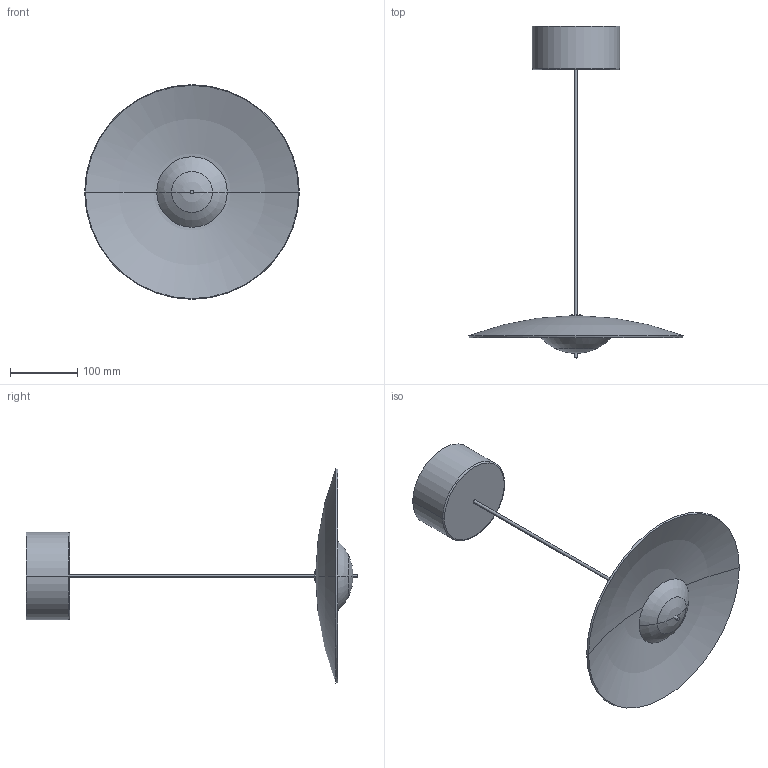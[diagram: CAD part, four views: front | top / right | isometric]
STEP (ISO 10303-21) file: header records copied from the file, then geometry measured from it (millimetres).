
FILE_DESCRIPTION((''),'2;1');
FILE_NAME('GINGER_32_ASM','2014-07-17T',('oftec'),(''),'PRO/ENGINEER BY PARAMETRIC TECHNOLOGY CORPORATION, 2012130','PRO/ENGINEER BY PARAMETRIC TECHNOLOGY CORPORATION, 2012130','');
FILE_SCHEMA(('CONFIG_CONTROL_DESIGN'));
Length unit declared in the file: millimetre
Products named in the file (7): 662-001; 662-004; 662-003; 662-036; FLORON_GINGER; CABLE_GINGER; GINGER_32_ASM
Assembly tree (6 placements, depth 2):
  GINGER_32_ASM
    662-001
    662-004
    662-003
    662-036
    FLORON_GINGER
    CABLE_GINGER
Bounding box: 320 x 495 x 320 mm (x, y, z)
Volume: 1229510.4 mm3; surface area: 249262.5 mm2
Topology: 6 solids, 6 shells, 43 faces, 84 edges, 48 vertices
Faces by surface type: cylinder 14, sphere 10, plane 9, torus 6, cone 4
Entity records: 1262 total; most frequent: DIRECTION 254, CARTESIAN_POINT 184, ORIENTED_EDGE 160, AXIS2_PLACEMENT_3D 118, EDGE_CURVE 80, CIRCLE 62, VERTEX_POINT 48, EDGE_LOOP 44
